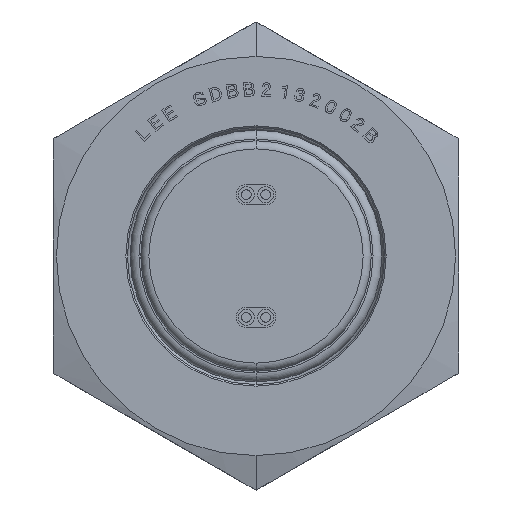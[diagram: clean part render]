
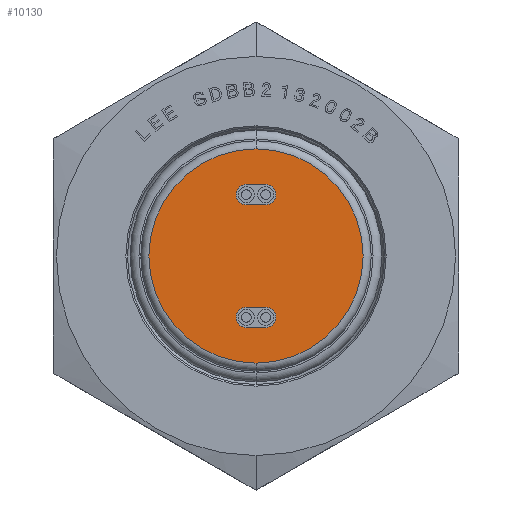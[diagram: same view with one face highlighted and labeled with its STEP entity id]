
A CAD part, left-side view. The second image highlights one B-rep face of the part: STEP entity #10130.
In plain terms, the highlighted planar face has unit normal (-1, 0, 0).
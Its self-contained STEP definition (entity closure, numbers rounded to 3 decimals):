
#4990=CARTESIAN_POINT('',(-35.92,13.532,-0.762));
#5000=VERTEX_POINT('',#4990);
#5170=CARTESIAN_POINT('',(-35.92,13.532,0.762));
#5180=VERTEX_POINT('',#5170);
#5210=CARTESIAN_POINT('',(-35.92,13.532,0.));
#5220=DIRECTION('',(0.,0.,-1.));
#5230=VECTOR('',#5220,1.);
#5240=LINE('',#5210,#5230);
#5250=EDGE_CURVE('',#5180,#5000,#5240,.T.);
#9060=CARTESIAN_POINT('',(-35.92,17.914,0.));
#9070=VERTEX_POINT('',#9060);
#9260=CARTESIAN_POINT('',(-35.92,1.15,0.));
#9270=VERTEX_POINT('',#9260);
#9300=CARTESIAN_POINT('',(-35.92,9.532,0.));
#9310=DIRECTION('',(-1.,0.,0.));
#9320=DIRECTION('',(0.,1.,0.));
#9330=AXIS2_PLACEMENT_3D('',#9300,#9310,#9320);
#9340=CIRCLE('',#9330,8.382);
#9350=EDGE_CURVE('',#9270,#9070,#9340,.T.);
#9400=CARTESIAN_POINT('',(-35.92,13.723,0.));
#9410=DIRECTION('',(1.,0.,0.));
#9420=DIRECTION('',(0.,-1.,0.));
#9430=AXIS2_PLACEMENT_3D('',#9400,#9410,#9420);
#9440=PLANE('',#9430);
#9450=EDGE_CURVE('',#9070,#9270,#9340,.T.);
#9460=ORIENTED_EDGE('',*,*,#9450,.T.);
#9470=ORIENTED_EDGE('',*,*,#9350,.T.);
#9480=EDGE_LOOP('',(#9470,#9460));
#9490=FACE_OUTER_BOUND('',#9480,.T.);
#9500=ORIENTED_EDGE('',*,*,#5250,.T.);
#9510=CARTESIAN_POINT('',(-35.92,14.332,0.762));
#9520=DIRECTION('',(-1.,0.,0.));
#9530=DIRECTION('',(0.,0.,1.));
#9540=AXIS2_PLACEMENT_3D('',#9510,#9520,#9530);
#9550=CIRCLE('',#9540,0.8);
#9560=CARTESIAN_POINT('',(-35.92,15.132,0.762));
#9570=VERTEX_POINT('',#9560);
#9580=EDGE_CURVE('',#5180,#9570,#9550,.T.);
#9590=ORIENTED_EDGE('',*,*,#9580,.F.);
#9600=CARTESIAN_POINT('',(-35.92,15.132,0.));
#9610=DIRECTION('',(0.,-0.,1.));
#9620=VECTOR('',#9610,1.);
#9630=LINE('',#9600,#9620);
#9640=CARTESIAN_POINT('',(-35.92,15.132,-0.762));
#9650=VERTEX_POINT('',#9640);
#9660=EDGE_CURVE('',#9650,#9570,#9630,.T.);
#9670=ORIENTED_EDGE('',*,*,#9660,.T.);
#9680=CARTESIAN_POINT('',(-35.92,14.332,-0.762));
#9690=DIRECTION('',(1.,-0.,-0.));
#9700=DIRECTION('',(0.,0.,-1.));
#9710=AXIS2_PLACEMENT_3D('',#9680,#9690,#9700);
#9720=CIRCLE('',#9710,0.8);
#9730=EDGE_CURVE('',#5000,#9650,#9720,.T.);
#9740=ORIENTED_EDGE('',*,*,#9730,.T.);
#9750=EDGE_LOOP('',(#9740,#9670,#9590,#9500));
#9760=FACE_BOUND('',#9750,.T.);
#9770=CARTESIAN_POINT('',(-35.92,5.531,0.));
#9780=DIRECTION('',(0.,-0.,1.));
#9790=VECTOR('',#9780,1.);
#9800=LINE('',#9770,#9790);
#9810=CARTESIAN_POINT('',(-35.92,5.531,-0.762));
#9820=VERTEX_POINT('',#9810);
#9830=CARTESIAN_POINT('',(-35.92,5.531,0.762));
#9840=VERTEX_POINT('',#9830);
#9850=EDGE_CURVE('',#9820,#9840,#9800,.T.);
#9860=ORIENTED_EDGE('',*,*,#9850,.T.);
#9870=CARTESIAN_POINT('',(-35.92,4.731,-0.762));
#9880=DIRECTION('',(-1.,0.,0.));
#9890=DIRECTION('',(0.,0.,-1.));
#9900=AXIS2_PLACEMENT_3D('',#9870,#9880,#9890);
#9910=CIRCLE('',#9900,0.8);
#9920=CARTESIAN_POINT('',(-35.92,3.931,-0.762));
#9930=VERTEX_POINT('',#9920);
#9940=EDGE_CURVE('',#9820,#9930,#9910,.T.);
#9950=ORIENTED_EDGE('',*,*,#9940,.F.);
#9960=CARTESIAN_POINT('',(-35.92,3.931,0.));
#9970=DIRECTION('',(0.,0.,-1.));
#9980=VECTOR('',#9970,1.);
#9990=LINE('',#9960,#9980);
#10000=CARTESIAN_POINT('',(-35.92,3.931,0.762));
#10010=VERTEX_POINT('',#10000);
#10020=EDGE_CURVE('',#10010,#9930,#9990,.T.);
#10030=ORIENTED_EDGE('',*,*,#10020,.T.);
#10040=CARTESIAN_POINT('',(-35.92,4.731,0.762));
#10050=DIRECTION('',(1.,-0.,-0.));
#10060=DIRECTION('',(0.,0.,1.));
#10070=AXIS2_PLACEMENT_3D('',#10040,#10050,#10060);
#10080=CIRCLE('',#10070,0.8);
#10090=EDGE_CURVE('',#9840,#10010,#10080,.T.);
#10100=ORIENTED_EDGE('',*,*,#10090,.T.);
#10110=EDGE_LOOP('',(#10100,#10030,#9950,#9860));
#10120=FACE_BOUND('',#10110,.T.);
#10130=ADVANCED_FACE('',(#9490,#9760,#10120),#9440,.F.);
